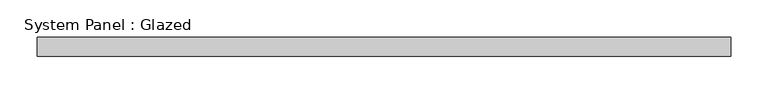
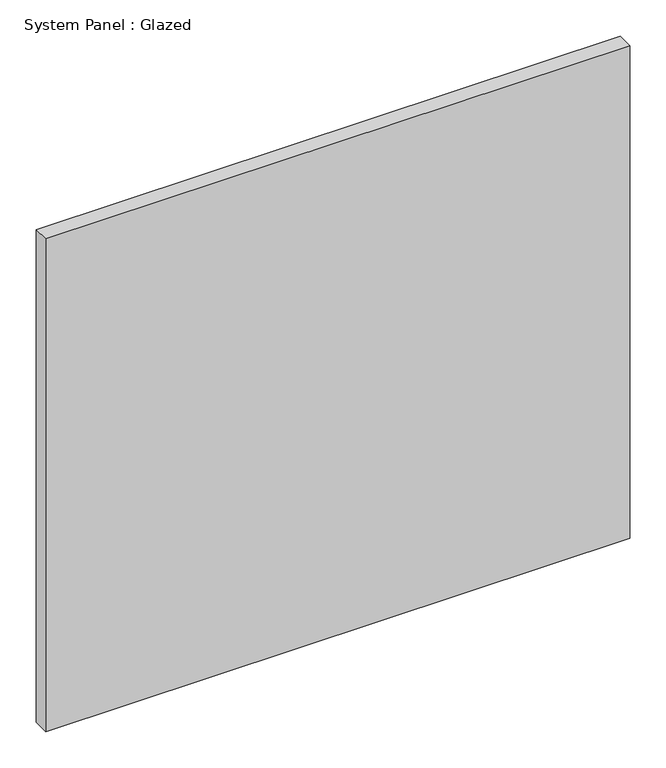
"""IFC4 building model written with IfcOpenShell, lengths in millimetres: plate geometry, System Panel : Glazed."""

import ifcopenshell
import ifcopenshell.guid

model = None  # the IFC model being written
_history = None  # IfcOwnerHistory: only IFC2X3 demands one
_inside = {}  # id of a spatial element -> (the spatial element, [elements in it])
_under = {}  # id of a project, library or spatial element -> (it, [spatial elements below it])
_declared = {}  # id of a project -> (the project, [libraries it declares])
_typed = {}  # id of a type object -> (the type object, [elements of that type])
_made_of = {}  # id of a material, layer set ... -> (it, [elements and type objects made of it])


def new_model(schema):
    """Start an empty IFC model of exactly this schema.

    Asked for "IFC4X3", IfcOpenShell would pick the latest addendum, in which some entities
    have other attributes; the version numbers below select the first issue.
    IFC2X3 requires an IfcOwnerHistory on every rooted entity: one is made here for all.
    """
    global model, _history
    if schema == "IFC4X3":
        model = ifcopenshell.file(schema_version=(4, 3, 0, 0))
    else:
        model = ifcopenshell.file(schema=schema)
    _inside.clear()
    _under.clear()
    _declared.clear()
    _typed.clear()
    _made_of.clear()
    _history = None
    if model.schema == "IFC2X3":
        org = make("IfcOrganization", Name="unknown")
        user = make(
            "IfcPersonAndOrganization",
            ThePerson=make("IfcPerson", FamilyName="unknown"),
            TheOrganization=org,
        )
        app = make(
            "IfcApplication",
            ApplicationDeveloper=org,
            Version="unknown",
            ApplicationFullName="unknown",
            ApplicationIdentifier="unknown",
        )
        _history = make(
            "IfcOwnerHistory",
            OwningUser=user,
            OwningApplication=app,
            ChangeAction="ADDED",
            CreationDate=0,
        )
    return model


def make(cls, **values):
    """One entity of the class cls with the attributes given. An attribute that is None is left unset."""
    return model.create_entity(
        cls, **{name: value for name, value in values.items() if value is not None}
    )


def rooted(cls, **values):
    """An entity with a GlobalId (a new one), such as an element, a storey or a relation."""
    return make(cls, GlobalId=ifcopenshell.guid.new(), OwnerHistory=_history, **values)


def si_unit(unit_type, name, prefix=None):
    """IfcSIUnit, for example si_unit("LENGTHUNIT", "METRE", prefix="MILLI")."""
    return make("IfcSIUnit", UnitType=unit_type, Prefix=prefix, Name=name)


def assignment(units):
    """IfcUnitAssignment: the units of a project."""
    return None if units is None else make("IfcUnitAssignment", Units=units)


def point(xyz):
    """IfcCartesianPoint."""
    return None if xyz is None else make("IfcCartesianPoint", Coordinates=xyz)


def direction(xyz):
    """IfcDirection."""
    return None if xyz is None else make("IfcDirection", DirectionRatios=xyz)


def frame(location, z_axis=None, x_axis=None):
    """IfcAxis2Placement3D, a coordinate frame: its origin and axes. An axis left out is left unset."""
    return make(
        "IfcAxis2Placement3D",
        Location=point(location),
        Axis=direction(z_axis),
        RefDirection=direction(x_axis),
    )


def origin():
    """The frame at (0, 0, 0) with its axes left unset."""
    return frame((0.0, 0.0, 0.0))


def origin_with_axes():
    """The frame at (0, 0, 0) with the z axis (0, 0, 1) and the x axis (1, 0, 0) written out."""
    return frame((0.0, 0.0, 0.0), z_axis=(0.0, 0.0, 1.0), x_axis=(1.0, 0.0, 0.0))


def place(relative_to, where):
    """IfcLocalPlacement: puts the frame where relative to a parent placement (None: the world)."""
    return make(
        "IfcLocalPlacement", PlacementRelTo=relative_to, RelativePlacement=where
    )


def context(
    kind, dimensions, precision=None, world=None, true_north=None, identifier=None
):
    """IfcGeometricRepresentationContext, for example the 3D "Model" context."""
    return make(
        "IfcGeometricRepresentationContext",
        ContextIdentifier=identifier,
        ContextType=kind,
        CoordinateSpaceDimension=dimensions,
        Precision=precision,
        WorldCoordinateSystem=world,
        TrueNorth=true_north,
    )


def project(units=None, contexts=None):
    """IfcProject with its units and contexts."""
    return rooted(
        "IfcProject",
        Name="project",
        RepresentationContexts=contexts,
        UnitsInContext=assignment(units),
    )


def spatial(cls, under=None, at=None, **own):
    """A site, building, storey or space (cls), placed at a placement, below another one or the project."""
    s = rooted(cls, ObjectPlacement=at, **own)
    if under is not None:
        _under.setdefault(under.id(), (under, []))[1].append(s)
    return s


def polyline(points):
    """IfcPolyline through the points."""
    return make("IfcPolyline", Points=[point(p) for p in points])


def outline(outer, holes=None, kind="AREA"):
    """IfcArbitraryClosedProfileDef: a profile drawn as a closed curve; with holes, ...WithVoids."""
    if holes is None:
        return make("IfcArbitraryClosedProfileDef", ProfileType=kind, OuterCurve=outer)
    return make(
        "IfcArbitraryProfileDefWithVoids",
        ProfileType=kind,
        OuterCurve=outer,
        InnerCurves=holes,
    )


def extrude(swept, where, along, depth):
    """IfcExtrudedAreaSolid: the profile swept, set in the frame where, extruded along a direction by depth."""
    return make(
        "IfcExtrudedAreaSolid",
        SweptArea=swept,
        Position=where,
        ExtrudedDirection=direction(along),
        Depth=depth,
    )


def shape(context_of_items, identifier, shape_type, items):
    """IfcShapeRepresentation: the items that make up one representation, for example the "Body"."""
    return make(
        "IfcShapeRepresentation",
        ContextOfItems=context_of_items,
        RepresentationIdentifier=identifier,
        RepresentationType=shape_type,
        Items=items,
    )


def source(mapping_origin, context_of_items, identifier, shape_type, items):
    """IfcRepresentationMap: a shape defined once, which mapped items show again and again."""
    return make(
        "IfcRepresentationMap",
        MappingOrigin=mapping_origin,
        MappedRepresentation=shape(context_of_items, identifier, shape_type, items),
    )


def transform(
    local_origin,
    x_axis=None,
    y_axis=None,
    z_axis=None,
    scale=None,
    scale2=None,
    scale3=None,
    uniform=True,
):
    """IfcCartesianTransformationOperator3D, or its non-uniform kind. x_axis, y_axis, z_axis: its Axis1, 2, 3."""
    if uniform:
        return make(
            "IfcCartesianTransformationOperator3D",
            Axis1=direction(x_axis),
            Axis2=direction(y_axis),
            LocalOrigin=point(local_origin),
            Scale=scale,
            Axis3=direction(z_axis),
        )
    return make(
        "IfcCartesianTransformationOperator3DnonUniform",
        Axis1=direction(x_axis),
        Axis2=direction(y_axis),
        LocalOrigin=point(local_origin),
        Scale=scale,
        Axis3=direction(z_axis),
        Scale2=scale2,
        Scale3=scale3,
    )


def mapped(mapping_source, mapping_target):
    """IfcMappedItem: shows the shape of a source again, moved by a transform."""
    return make(
        "IfcMappedItem", MappingSource=mapping_source, MappingTarget=mapping_target
    )


def made_of(thing, what):
    """Note that an element or type object is made of a material, layer set ...; save() writes the relation."""
    if what is not None:
        _made_of.setdefault(what.id(), (what, []))[1].append(thing)
    return thing


def element(
    cls,
    number,
    at=None,
    inside=None,
    cuts=None,
    type_object=None,
    material=None,
    context=None,
    identifier="Body",
    shape_type=None,
    held_by="IfcProductDefinitionShape",
    body=None,
    shapes=None,
    **own,
):
    """One element of the class cls, such as IfcWall. Its Tag is "e" and its number.

    at: its placement. inside: the storey or other place that contains it. cuts: it is an
    opening in that element (IfcRelVoidsElement). A single representation is given by context,
    identifier, shape_type and body (its items); several are given by shapes. held_by: the class
    of the entity that holds the representations. save() writes the other relations.
    """
    e = rooted(cls, Tag="e%d" % number, ObjectPlacement=at, **own)
    if body is not None:
        shapes = [shape(context, identifier, shape_type, body)]
    if shapes is not None:
        e.Representation = make(held_by, Representations=shapes)
    if inside is not None:
        _inside.setdefault(inside.id(), (inside, []))[1].append(e)
    if cuts is not None:
        rooted(
            "IfcRelVoidsElement", RelatingBuildingElement=cuts, RelatedOpeningElement=e
        )
    if type_object is not None:
        _typed.setdefault(type_object.id(), (type_object, []))[1].append(e)
    return made_of(e, material)


def aggregate(whole, parts):
    """IfcRelAggregates: a whole, such as a stair, and the parts it consists of."""
    return rooted("IfcRelAggregates", RelatingObject=whole, RelatedObjects=parts)


def save(model, path):
    """Write the relations noted so far, then the file.

    IfcRelAggregates (storeys below a building ...), IfcRelContainedInSpatialStructure (elements
    in a storey), IfcRelDefinesByType, IfcRelAssociatesMaterial and IfcRelDeclares: one each for
    every whole, place, type object, material and project.
    """
    for whole, parts in _under.values():
        aggregate(whole, parts)
    for where, things in _inside.values():
        rooted(
            "IfcRelContainedInSpatialStructure",
            RelatedElements=things,
            RelatingStructure=where,
        )
    for kind, things in _typed.values():
        rooted("IfcRelDefinesByType", RelatedObjects=things, RelatingType=kind)
    for what, things in _made_of.values():
        rooted("IfcRelAssociatesMaterial", RelatedObjects=things, RelatingMaterial=what)
    for by, libraries in _declared.values():
        rooted("IfcRelDeclares", RelatingContext=by, RelatedDefinitions=libraries)
    model.write(path)


def system_panel_glazed_fbde87e3(model_context):
    return source(origin(), model_context, "Body", "SweptSolid", [
        extrude(outline(polyline([(462.5, 24.5), (-462.5, 24.5), (-462.5, 49.5), (462.5, 49.5), (462.5, 24.5)])), origin_with_axes(), (0.0, 0.0, 1.0), 825.0),
    ])


if __name__ == "__main__":
    model = new_model("IFC4")
    model_context = context("Model", 3, world=origin())
    ifc_project = project(units=[si_unit("LENGTHUNIT", "METRE", prefix="MILLI")], contexts=[model_context])
    site = spatial("IfcSite", under=ifc_project)
    building = spatial("IfcBuilding", under=site)
    placement = place(None, origin())
    system_panel_glazed_shape = system_panel_glazed_fbde87e3(model_context)
    element("IfcPlate", 1, ObjectType="System Panel : Glazed", at=placement, inside=building, context=model_context, shape_type="MappedRepresentation", body=[
        mapped(system_panel_glazed_shape, transform((0.0, 0.0, 0.0), x_axis=(1.0, 0.0, 0.0), y_axis=(0.0, 1.0, 0.0), z_axis=(0.0, 0.0, 1.0))),
    ])
    save(model, "model.ifc")
